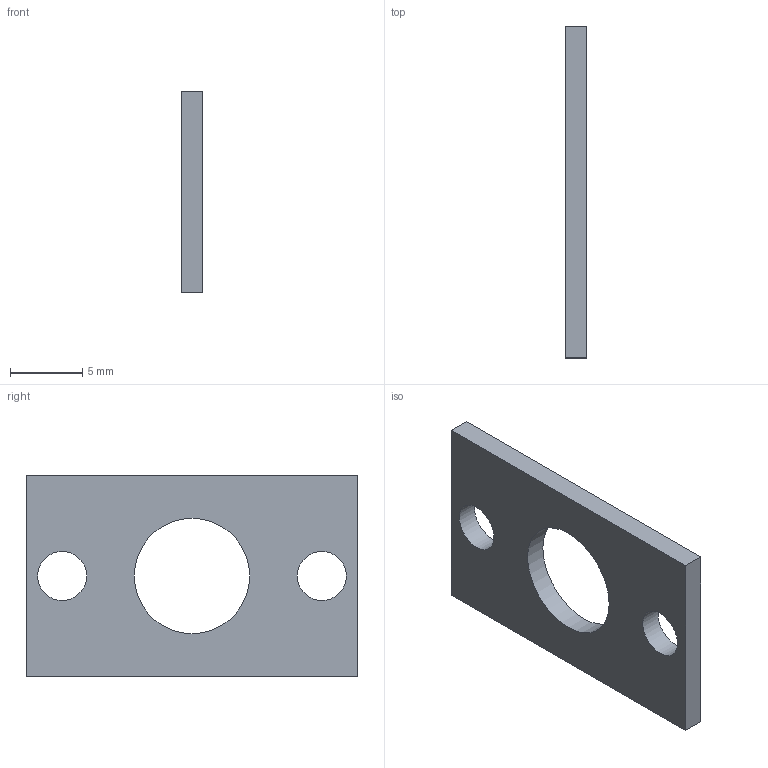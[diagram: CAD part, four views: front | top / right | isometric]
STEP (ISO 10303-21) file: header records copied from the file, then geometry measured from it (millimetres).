
FILE_DESCRIPTION(('Open CASCADE Model'),'2;1');
FILE_NAME('Open CASCADE Shape Model','2026-11-24T19:57:40',('Author'),( 'Open CASCADE'),'Open CASCADE STEP processor 7.8','Open CASCADE 7.8' ,'Unknown');
FILE_SCHEMA(('AUTOMOTIVE_DESIGN { 1 0 10303 214 1 1 1 1 }'));
Length unit declared in the file: millimetre
Products named in the file (1): Open CASCADE STEP translator 7.8 123
Bounding box: 1.5 x 23 x 14 mm (x, y, z)
Volume: 380.4 mm3; surface area: 687.9 mm2
Topology: 1 solids, 1 shells, 9 faces, 21 edges, 14 vertices
Faces by surface type: plane 6, cylinder 3
Full cylindrical faces by diameter (mm): 3.4 x2, 8 x1
Entity records: 553 total; most frequent: CARTESIAN_POINT 90, DIRECTION 86, LINE 48, VECTOR 48, ORIENTED_EDGE 42, PCURVE 42, DEFINITIONAL_REPRESENTATION 42, EDGE_CURVE 21
